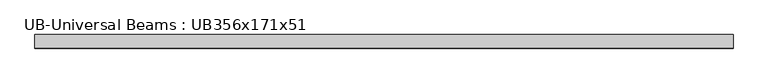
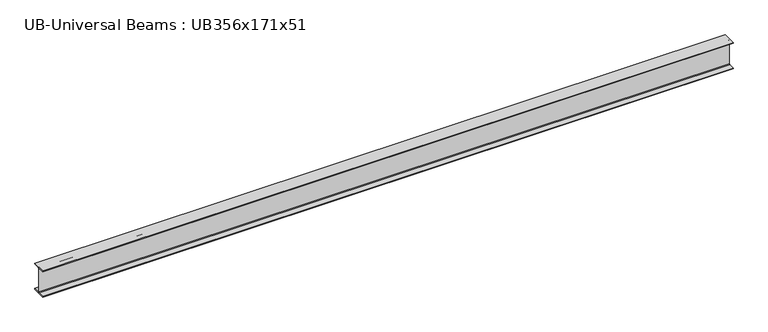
"""IFC4 building model written with IfcOpenShell, lengths in millimetres: beam geometry, UB-Universal Beams : UB356x171x51."""

from ifc_helpers import new_model, si_unit, point, frame, frame_2d, origin, place, context, project, spatial, polyline, circle_curve, trimmed, segment, composite_curve, outline, extrude, source, transform, mapped, element, save


def ub_universal_beams_ub356x171x51_475301e6(model_context):
    return source(origin(), model_context, "Body", "SweptSolid", [
        extrude(outline(composite_curve([segment(polyline([(85.75, -166.0), (85.75, -177.5), (-85.75, -177.5), (-85.75, -166.0), (-13.9, -166.0)]), True, "CONTINUOUS"), segment(trimmed(circle_curve(frame_2d((-13.9, -155.8)), 10.2), [point((-13.9, -166.0))], [point((-3.7, -155.8))], True, "CARTESIAN"), True, "CONTINUOUS"), segment(polyline([(-3.7, -155.8), (-3.7, 155.8)]), True, "CONTINUOUS"), segment(trimmed(circle_curve(frame_2d((-13.9, 155.8)), 10.2), [point((-3.7, 155.8))], [point((-13.9, 166.0))], True, "CARTESIAN"), True, "CONTINUOUS"), segment(polyline([(-13.9, 166.0), (-85.75, 166.0), (-85.75, 177.5), (85.75, 177.5), (85.75, 166.0), (13.9, 166.0)]), True, "CONTINUOUS"), segment(trimmed(circle_curve(frame_2d((13.9, 155.8)), 10.2), [point((13.9, 166.0))], [point((3.7, 155.8))], True, "CARTESIAN"), True, "CONTINUOUS"), segment(polyline([(3.7, 155.8), (3.7, -155.8)]), True, "CONTINUOUS"), segment(trimmed(circle_curve(frame_2d((13.9, -155.8)), 10.2), [point((3.7, -155.8))], [point((13.9, -166.0))], True, "CARTESIAN"), True, "CONTINUOUS"), segment(polyline([(13.9, -166.0), (85.75, -166.0)]), True, "CONTINUOUS")], self_intersect=False)), frame((-4406.6, 0.0, 0.0), z_axis=(1.0, 0.0, 0.0), x_axis=(0.0, 1.0, 0.0)), (0.0, 0.0, 1.0), 8813.2),
    ])


if __name__ == "__main__":
    model = new_model("IFC4")
    model_context = context("Model", 3, world=origin())
    ifc_project = project(units=[si_unit("LENGTHUNIT", "METRE", prefix="MILLI")], contexts=[model_context])
    site = spatial("IfcSite", under=ifc_project)
    building = spatial("IfcBuilding", under=site)
    placement = place(None, origin())
    ub_universal_beams_ub356x171x51_shape = ub_universal_beams_ub356x171x51_475301e6(model_context)
    element("IfcBeam", 1, ObjectType="UB-Universal Beams : UB356x171x51", at=placement, inside=building, context=model_context, shape_type="MappedRepresentation", body=[
        mapped(ub_universal_beams_ub356x171x51_shape, transform((0.0, 0.0, 0.0), x_axis=(1.0, 0.0, 0.0), y_axis=(0.0, 1.0, 0.0), z_axis=(0.0, 0.0, 1.0))),
    ])
    save(model, "model.ifc")
